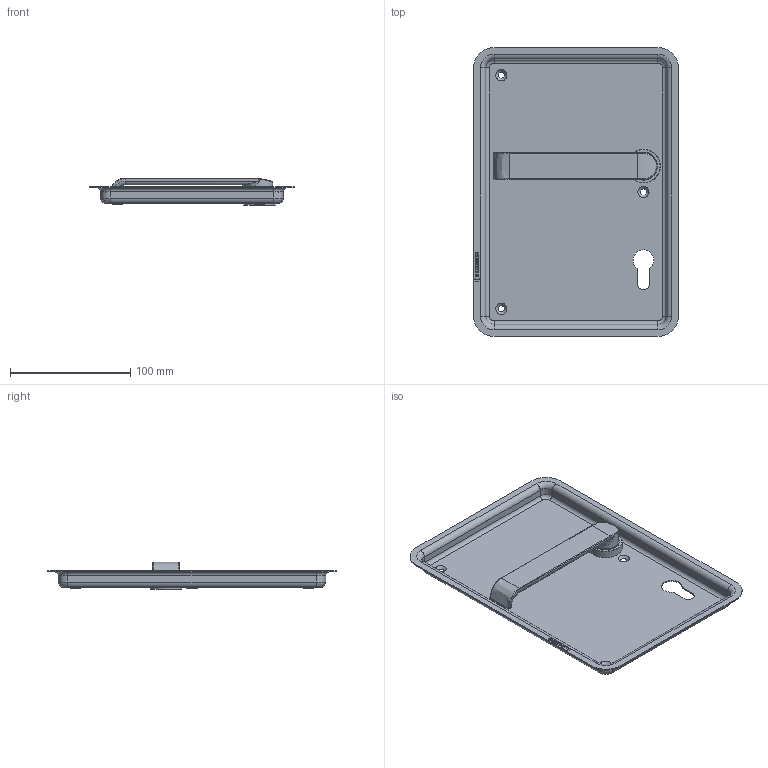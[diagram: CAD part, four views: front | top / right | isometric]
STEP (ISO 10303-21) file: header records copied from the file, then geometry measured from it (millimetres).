
FILE_DESCRIPTION(/* description */ (''),/* implementation_level */ '2;1');
FILE_NAME(/* name */ 'C:\ADSK_DMS_WS\Designs\Vorschläge\Loc Schalen\Muschel Serie 3\S3.13.D1Links\Heusser-Muschel S3.13.D1.378L.stp',/* time_stamp */ '2020-11-21T10:13:14+01:00',/* author */ ('gm'),/* organization */ (''),/* preprocessor_version */ 'ST-DEVELOPER v16.5',/* originating_system */ 'Autodesk Inventor 2017',/* authorisation */ '');
FILE_SCHEMA (('AUTOMOTIVE_DESIGN { 1 0 10303 214 3 1 1 }'));
Length unit declared in the file: millimetre
Products named in the file (1): S3.13.D1.L
Bounding box: 170 x 240 x 23 mm (x, y, z)
Volume: 67300.9 mm3; surface area: 105716.7 mm2
Topology: 1 solids, 2 shells, 308 faces, 770 edges, 488 vertices
Faces by surface type: plane 132, bspline 82, cylinder 63, cone 16, torus 15
Full cylindrical faces by diameter (mm): 1.7 x2, 6 x1, 16 x3, 18 x1, 19 x1, 19.1 x1, 22 x1, 23 x1, 23.2 x1, 24 x1, 25 x1, 26 x1, 28 x1
Entity records: 10295 total; most frequent: CARTESIAN_POINT 3041, ORIENTED_EDGE 1456, DIRECTION 1280, EDGE_CURVE 728, VERTEX_POINT 482, AXIS2_PLACEMENT_3D 439, LINE 402, VECTOR 402
